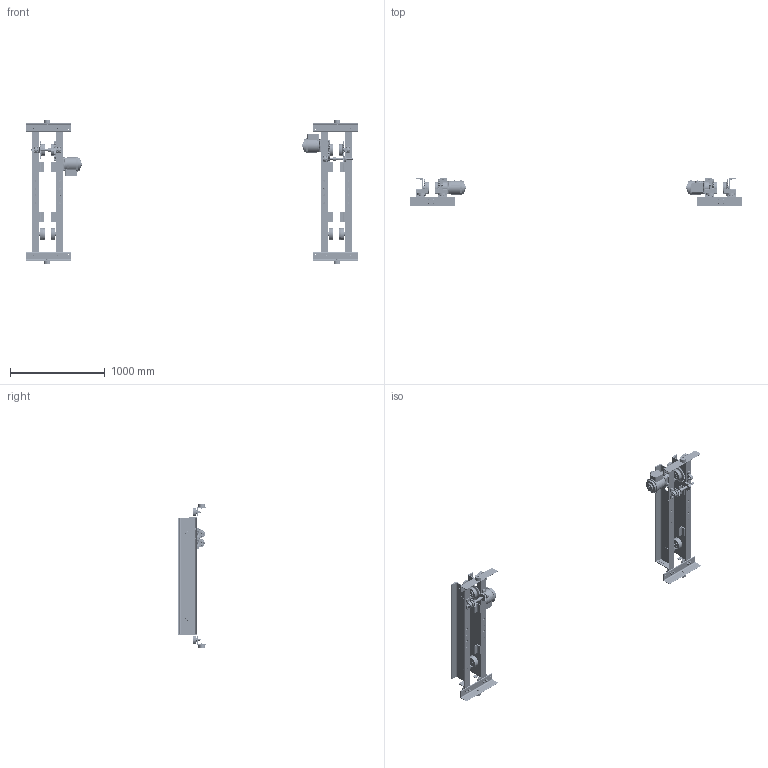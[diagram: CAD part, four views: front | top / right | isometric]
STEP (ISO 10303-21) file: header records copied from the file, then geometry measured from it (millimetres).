
FILE_DESCRIPTION (( 'STEP AP214' ), '1' );
FILE_NAME ('UMH-3-0335.STEP', '2026-08-11T15:59:43', ( '' ), ( '' ), 'SwSTEP 2.0', 'SolidWorks 2026', '' );
FILE_SCHEMA (( 'AUTOMOTIVE_DESIGN' ));
Length unit declared in the file: inch
Products named in the file (79): 9047262_B27.7M - 3BM1-62; 9012709_Rectangular section spring washer BS 4464 - 16 (Type B); 62329XXU_6232904U; 9012514_9012514; 9798526_9798526; G1JE025S9603; 9012711_9012711; G1JE040T9503; 6232404; MC08-018.7_48; G1JE025S9707; 9093146_9093146; G1JE025S9610; 9012707_9012707; N6QL210116; 9093424_9093424; 62588; 9047252_9047252; UMH-3-0335; 9093101_9093101; N6QL210209; 6234701X_6234701C; 62328XXU_6232804U; G1JE025S9301; 9091273_9091273; 6232803_6232803; N6QL210207; 6257004; 62587; 9012712_9012712; N6QL210113; 9093433_9093433; 9000605; G1JE025S9303; N6QL5201101; N6QL210115; 62334XXU_6233402U; 62332XXU_6233202U; 9012515_9012515; N6QL520E9101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
Assembly tree (385 placements, depth 4):
  UMH-3-0335
    62332XXU_6233202U
      62328XXU_6232804U
        MC08-018.7_48
        6232803_6232803
        6232803_6232803
      6232302  x2
      6232304  x2
      5204405_5204405  x2
      6233203  x2
      6257004
    62333XXU_6233302U  x2
      62329XXU_6232904U
        MC08-018.7_48
        6232803_6232803
        6232803_6232803
      6232302
      6232304
      5204405_5204405
      6233203
    62334XXU_6233402U
      62330XXU_6233004U
        MC08-018.7_48
        6232803_6232803
        6232803_6232803
      6232302  x2
      6232304  x2
      5204405_5204405  x2
      6233203  x2
      6257004
    6234701X_6234701C  x2
    6234702X_6234702C  x2
    6234502  x4
      6232602
      9000507
      9047262_B27.7M - 3BM1-62
    6232402  x8
    9047135_9047135  x8
    9093146_9093146  x8
    9012515_9012515  x16
    9093433_9093433  x32
    N6QO3101108_N6QO3101108  x8
      N6QO310E9108_N6QO3101108 DOMESTIC
      9047252_9047252
      9000605
    6232404  x8
    9047125_B27.7M - 3AM1-23  x8
    N6QL210207  x4
    9012514_9012514  x12
    9093101_9093101  x4
    9093424_9093424  x8
    N6QL5201101  x4
      N6QL520E9101
      9000507
      9047262_B27.7M - 3BM1-62
    N6QL210116  x4
    9012712_9012712  x8
    9093354_9093354  x8
    9043411  x8
    9093427_9093427  x8
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Bounding box: 3503.22 x 292.1 x 1525.81 mm (x, y, z)
Volume: 35929827.3 mm3; surface area: 7409286.4 mm2
Topology: 412 solids, 508 shells, 26022 faces, 67214 edges, 43448 vertices
Faces by surface type: plane 12604, cylinder 5776, bspline 3954, cone 2662, torus 828, sphere 198
Entity records: 218217 total; most frequent: CARTESIAN_POINT 92755, ORIENTED_EDGE 25614, DIRECTION 23004, EDGE_CURVE 12811, AXIS2_PLACEMENT_3D 8814, VERTEX_POINT 8205, EDGE_LOOP 5484, VECTOR 5376
